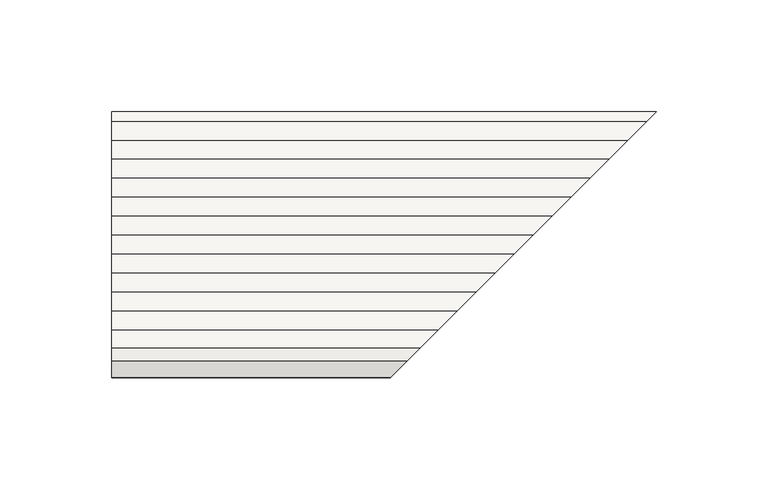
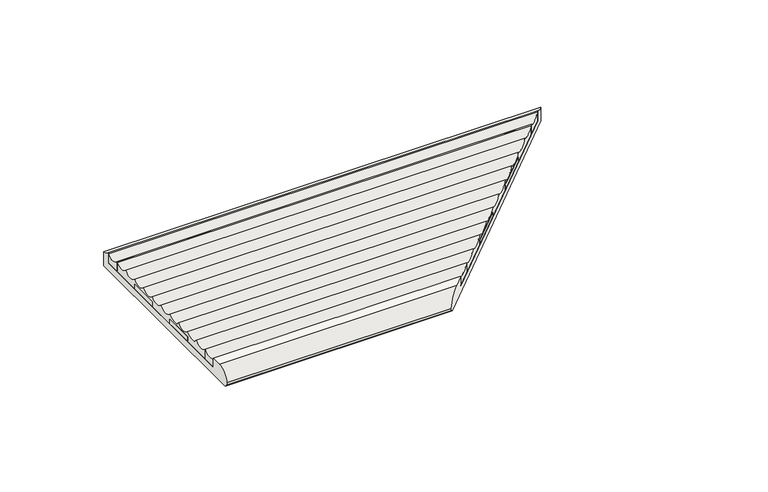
"""IFC4 building model written with IfcOpenShell, lengths in millimetres: slab geometry, ROSA GRES_003 (corte) : Pieza 003_Aqua_Marino_Anti-Slip."""

import ifcopenshell
import ifcopenshell.guid

model = None  # the IFC model being written
_history = None  # IfcOwnerHistory: only IFC2X3 demands one
_inside = {}  # id of a spatial element -> (the spatial element, [elements in it])
_under = {}  # id of a project, library or spatial element -> (it, [spatial elements below it])
_declared = {}  # id of a project -> (the project, [libraries it declares])
_typed = {}  # id of a type object -> (the type object, [elements of that type])
_made_of = {}  # id of a material, layer set ... -> (it, [elements and type objects made of it])


def new_model(schema):
    """Start an empty IFC model of exactly this schema.

    Asked for "IFC4X3", IfcOpenShell would pick the latest addendum, in which some entities
    have other attributes; the version numbers below select the first issue.
    IFC2X3 requires an IfcOwnerHistory on every rooted entity: one is made here for all.
    """
    global model, _history
    if schema == "IFC4X3":
        model = ifcopenshell.file(schema_version=(4, 3, 0, 0))
    else:
        model = ifcopenshell.file(schema=schema)
    _inside.clear()
    _under.clear()
    _declared.clear()
    _typed.clear()
    _made_of.clear()
    _history = None
    if model.schema == "IFC2X3":
        org = make("IfcOrganization", Name="unknown")
        user = make(
            "IfcPersonAndOrganization",
            ThePerson=make("IfcPerson", FamilyName="unknown"),
            TheOrganization=org,
        )
        app = make(
            "IfcApplication",
            ApplicationDeveloper=org,
            Version="unknown",
            ApplicationFullName="unknown",
            ApplicationIdentifier="unknown",
        )
        _history = make(
            "IfcOwnerHistory",
            OwningUser=user,
            OwningApplication=app,
            ChangeAction="ADDED",
            CreationDate=0,
        )
    return model


def make(cls, **values):
    """One entity of the class cls with the attributes given. An attribute that is None is left unset."""
    return model.create_entity(
        cls, **{name: value for name, value in values.items() if value is not None}
    )


def rooted(cls, **values):
    """An entity with a GlobalId (a new one), such as an element, a storey or a relation."""
    return make(cls, GlobalId=ifcopenshell.guid.new(), OwnerHistory=_history, **values)


def si_unit(unit_type, name, prefix=None):
    """IfcSIUnit, for example si_unit("LENGTHUNIT", "METRE", prefix="MILLI")."""
    return make("IfcSIUnit", UnitType=unit_type, Prefix=prefix, Name=name)


def assignment(units):
    """IfcUnitAssignment: the units of a project."""
    return None if units is None else make("IfcUnitAssignment", Units=units)


def point(xyz):
    """IfcCartesianPoint."""
    return None if xyz is None else make("IfcCartesianPoint", Coordinates=xyz)


def direction(xyz):
    """IfcDirection."""
    return None if xyz is None else make("IfcDirection", DirectionRatios=xyz)


def frame(location, z_axis=None, x_axis=None):
    """IfcAxis2Placement3D, a coordinate frame: its origin and axes. An axis left out is left unset."""
    return make(
        "IfcAxis2Placement3D",
        Location=point(location),
        Axis=direction(z_axis),
        RefDirection=direction(x_axis),
    )


def origin():
    """The frame at (0, 0, 0) with its axes left unset."""
    return frame((0.0, 0.0, 0.0))


def place(relative_to, where):
    """IfcLocalPlacement: puts the frame where relative to a parent placement (None: the world)."""
    return make(
        "IfcLocalPlacement", PlacementRelTo=relative_to, RelativePlacement=where
    )


def context(
    kind, dimensions, precision=None, world=None, true_north=None, identifier=None
):
    """IfcGeometricRepresentationContext, for example the 3D "Model" context."""
    return make(
        "IfcGeometricRepresentationContext",
        ContextIdentifier=identifier,
        ContextType=kind,
        CoordinateSpaceDimension=dimensions,
        Precision=precision,
        WorldCoordinateSystem=world,
        TrueNorth=true_north,
    )


def project(units=None, contexts=None):
    """IfcProject with its units and contexts."""
    return rooted(
        "IfcProject",
        Name="project",
        RepresentationContexts=contexts,
        UnitsInContext=assignment(units),
    )


def spatial(cls, under=None, at=None, **own):
    """A site, building, storey or space (cls), placed at a placement, below another one or the project."""
    s = rooted(cls, ObjectPlacement=at, **own)
    if under is not None:
        _under.setdefault(under.id(), (under, []))[1].append(s)
    return s


def polyline(points):
    """IfcPolyline through the points."""
    return make("IfcPolyline", Points=[point(p) for p in points])


def circle_curve(where, radius):
    """IfcCircle in the frame where."""
    return make("IfcCircle", Position=where, Radius=radius)


def ellipse_curve(where, semi_axis1, semi_axis2):
    """IfcEllipse in the frame where."""
    return make(
        "IfcEllipse", Position=where, SemiAxis1=semi_axis1, SemiAxis2=semi_axis2
    )


def faces_of(points, faces, orient=None, outer=None):
    """IfcFace entities. A face is a list of loops; a loop is a list of indices into points, from 0.

    orient and outer hold one flag for each loop. By default every Orientation is true, the
    first loop of a face is its IfcFaceOuterBound and the others are IfcFaceBound.
    """
    made = []
    for i, loops in enumerate(faces):
        bounds = []
        for j, loop in enumerate(loops):
            is_outer = j == 0 if outer is None else outer[i][j]
            bounds.append(
                make(
                    "IfcFaceOuterBound" if is_outer else "IfcFaceBound",
                    Bound=make("IfcPolyLoop", Polygon=[points[k] for k in loop]),
                    Orientation=True if orient is None else orient[i][j],
                )
            )
        made.append(make("IfcFace", Bounds=bounds))
    return made


def faceted_brep(points, faces, orient=None, outer=None, voids=None):
    """IfcFacetedBrep: a solid bounded by flat faces; with voids (closed shells), ...WithVoids."""
    shared = [point(p) for p in points]
    hull = make("IfcClosedShell", CfsFaces=faces_of(shared, faces, orient, outer))
    if voids is None:
        return make("IfcFacetedBrep", Outer=hull)
    return make(
        "IfcFacetedBrepWithVoids",
        Outer=hull,
        Voids=[
            make(cls, CfsFaces=faces_of(shared, fs, o, b)) for cls, fs, o, b in voids
        ],
    )


def shape(context_of_items, identifier, shape_type, items):
    """IfcShapeRepresentation: the items that make up one representation, for example the "Body"."""
    return make(
        "IfcShapeRepresentation",
        ContextOfItems=context_of_items,
        RepresentationIdentifier=identifier,
        RepresentationType=shape_type,
        Items=items,
    )


def source(mapping_origin, context_of_items, identifier, shape_type, items):
    """IfcRepresentationMap: a shape defined once, which mapped items show again and again."""
    return make(
        "IfcRepresentationMap",
        MappingOrigin=mapping_origin,
        MappedRepresentation=shape(context_of_items, identifier, shape_type, items),
    )


def transform(
    local_origin,
    x_axis=None,
    y_axis=None,
    z_axis=None,
    scale=None,
    scale2=None,
    scale3=None,
    uniform=True,
):
    """IfcCartesianTransformationOperator3D, or its non-uniform kind. x_axis, y_axis, z_axis: its Axis1, 2, 3."""
    if uniform:
        return make(
            "IfcCartesianTransformationOperator3D",
            Axis1=direction(x_axis),
            Axis2=direction(y_axis),
            LocalOrigin=point(local_origin),
            Scale=scale,
            Axis3=direction(z_axis),
        )
    return make(
        "IfcCartesianTransformationOperator3DnonUniform",
        Axis1=direction(x_axis),
        Axis2=direction(y_axis),
        LocalOrigin=point(local_origin),
        Scale=scale,
        Axis3=direction(z_axis),
        Scale2=scale2,
        Scale3=scale3,
    )


def mapped(mapping_source, mapping_target):
    """IfcMappedItem: shows the shape of a source again, moved by a transform."""
    return make(
        "IfcMappedItem", MappingSource=mapping_source, MappingTarget=mapping_target
    )


def made_of(thing, what):
    """Note that an element or type object is made of a material, layer set ...; save() writes the relation."""
    if what is not None:
        _made_of.setdefault(what.id(), (what, []))[1].append(thing)
    return thing


def element(
    cls,
    number,
    at=None,
    inside=None,
    cuts=None,
    type_object=None,
    material=None,
    context=None,
    identifier="Body",
    shape_type=None,
    held_by="IfcProductDefinitionShape",
    body=None,
    shapes=None,
    **own,
):
    """One element of the class cls, such as IfcWall. Its Tag is "e" and its number.

    at: its placement. inside: the storey or other place that contains it. cuts: it is an
    opening in that element (IfcRelVoidsElement). A single representation is given by context,
    identifier, shape_type and body (its items); several are given by shapes. held_by: the class
    of the entity that holds the representations. save() writes the other relations.
    """
    e = rooted(cls, Tag="e%d" % number, ObjectPlacement=at, **own)
    if body is not None:
        shapes = [shape(context, identifier, shape_type, body)]
    if shapes is not None:
        e.Representation = make(held_by, Representations=shapes)
    if inside is not None:
        _inside.setdefault(inside.id(), (inside, []))[1].append(e)
    if cuts is not None:
        rooted(
            "IfcRelVoidsElement", RelatingBuildingElement=cuts, RelatedOpeningElement=e
        )
    if type_object is not None:
        _typed.setdefault(type_object.id(), (type_object, []))[1].append(e)
    return made_of(e, material)


def aggregate(whole, parts):
    """IfcRelAggregates: a whole, such as a stair, and the parts it consists of."""
    return rooted("IfcRelAggregates", RelatingObject=whole, RelatedObjects=parts)


def save(model, path):
    """Write the relations noted so far, then the file.

    IfcRelAggregates (storeys below a building ...), IfcRelContainedInSpatialStructure (elements
    in a storey), IfcRelDefinesByType, IfcRelAssociatesMaterial and IfcRelDeclares: one each for
    every whole, place, type object, material and project.
    """
    for whole, parts in _under.values():
        aggregate(whole, parts)
    for where, things in _inside.values():
        rooted(
            "IfcRelContainedInSpatialStructure",
            RelatedElements=things,
            RelatingStructure=where,
        )
    for kind, things in _typed.values():
        rooted("IfcRelDefinesByType", RelatedObjects=things, RelatingType=kind)
    for what, things in _made_of.values():
        rooted("IfcRelAssociatesMaterial", RelatedObjects=things, RelatingMaterial=what)
    for by, libraries in _declared.values():
        rooted("IfcRelDeclares", RelatingContext=by, RelatedDefinitions=libraries)
    model.write(path)


def plane_surface(at):
    """IfcPlane: the flat surface through the origin of the frame at, square to its z axis."""
    return make("IfcPlane", Position=at)


def cylinder_surface(at, radius):
    """IfcCylindricalSurface: all points at the distance radius from the z axis of the frame at."""
    return make("IfcCylindricalSurface", Position=at, Radius=radius)


def revolved_surface(curve, axis_point, axis_direction):
    """IfcSurfaceOfRevolution: the curve turned about the line through axis_point along axis_direction."""
    return make(
        "IfcSurfaceOfRevolution",
        SweptCurve=make("IfcArbitraryOpenProfileDef", ProfileType="CURVE", Curve=curve),
        AxisPosition=make("IfcAxis1Placement", Location=point(axis_point), Axis=direction(axis_direction)),
    )


def advanced_brep(points, edges, surfaces, faces):
    """IfcAdvancedBrep: a solid bounded by faces that lie on surfaces and meet in shared edges.

    An edge is (start, end): straight between two places in points (the first is 0);
    or (start, end, curve); or (start, end, curve, False) where it runs against its curve.
    A face is (place in surfaces, loops), or (place, loops, False) where it looks against
    its surface's normal. A loop lists edges by number (the first is 1), with a minus sign
    where the edge is run from its end to its start. The first loop is the outer one.
    """
    corners = [point(p) for p in points]
    vertices = [make("IfcVertexPoint", VertexGeometry=c) for c in corners]
    made = []
    for start, end, *more in edges:
        made.append(
            make(
                "IfcEdgeCurve",
                EdgeStart=vertices[start],
                EdgeEnd=vertices[end],
                EdgeGeometry=more[0] if more else make("IfcPolyline", Points=[corners[start], corners[end]]),
                SameSense=more[1] if len(more) > 1 else True,
            )
        )
    hull = []
    for where, loops, *sense in faces:
        bounds = []
        for j, loop in enumerate(loops):
            ring = [make("IfcOrientedEdge", EdgeElement=made[abs(k) - 1], Orientation=k > 0) for k in loop]
            bounds.append(
                make(
                    "IfcFaceOuterBound" if j == 0 else "IfcFaceBound",
                    Bound=make("IfcEdgeLoop", EdgeList=ring),
                    Orientation=True,
                )
            )
        hull.append(make("IfcAdvancedFace", Bounds=bounds, FaceSurface=surfaces[where], SameSense=sense[0] if sense else True))
    return make("IfcAdvancedBrep", Outer=make("IfcClosedShell", CfsFaces=hull))


def slab_8c31d14a(model_context):
    return source(origin(), model_context, "Body", "SolidModel", [
        advanced_brep(
        [(0.0, 7.6663965, 9.4971975), (0.0, 13.1748183, 9.4971975), (0.0, 13.1748183, 4.0921512), (0.0, 114.6668888, 4.0921512), (0.0, 114.6668888, 10.0472945), (0.0, 118.9413691, 8.0603545), (0.0, 118.9413691, 0.0), (0.0, 1.8763284, 0.0), (0.0, 0.5667365, 1.309592), (0.0, 0.0244803, 2.9846331), (132.2250275, 7.6663965, 9.4971975), (137.7334492, 13.1748183, 9.4971975), (239.2255197, 114.6668888, 10.0472945), (243.5, 118.9413691, 8.0603545), (243.5, 118.9413691, 0.0), (126.4349593, 1.8763284, 0.0), (125.1253674, 0.5667365, 1.309592), (124.5831112, 0.0244803, 2.9846331), (137.7334492, 13.1748183, 4.0921512), (239.2255197, 114.6668888, 4.0921512)],
        [
            (0, 1),
            (1, 2),
            (2, 3),
            (3, 4),
            (4, 5, circle_curve(frame((0.0, 118.9413691, 13.6516438), z_axis=(1.0, 0.0, 0.0), x_axis=(0.0, 1.0, 0.0)), 5.5912893)),
            (5, 6),
            (6, 7),
            (7, 8),
            (8, 9, circle_curve(frame((0.0, 1.9349594, 2.6778148), z_axis=(-1.0, 0.0, 0.0), x_axis=(0.0, 1.0, 0.0)), 1.9349594)),
            (9, 0, circle_curve(frame((0.0, 7.6663965, 1.7573601), z_axis=(-1.0, 0.0, 0.0), x_axis=(0.0, 1.0, 0.0)), 7.7398374)),
            (0, 10),
            (10, 11),
            (11, 1),
            (4, 12),
            (12, 13, ellipse_curve(frame((243.5, 118.9413691, 13.6516438), z_axis=(0.7071067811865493, -0.7071067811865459, 0.0), x_axis=(0.7071067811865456, 0.7071067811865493, 0.0)), 7.9072771, 5.5912893)),
            (13, 5),
            (13, 14),
            (14, 6),
            (14, 15),
            (15, 7),
            (15, 16),
            (16, 8),
            (16, 17, ellipse_curve(frame((126.4935903, 1.9349594, 2.6778148), z_axis=(-0.7071067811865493, 0.7071067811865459, 0.0), x_axis=(-0.7071067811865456, -0.7071067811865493, 0.0)), 2.7364458, 1.9349594)),
            (17, 9),
            (17, 10, ellipse_curve(frame((132.2250275, 7.6663965, 1.7573601), z_axis=(-0.7071067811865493, 0.7071067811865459, 0.0), x_axis=(-0.7071067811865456, -0.7071067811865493, 0.0)), 10.945783, 7.7398374)),
            (11, 18),
            (18, 2),
            (18, 19),
            (19, 3),
            (19, 12),
        ],
        [
            plane_surface(frame((0.0, 0.0, 0.0), z_axis=(-1.0, 0.0, 0.0), x_axis=(0.0, 0.0, 1.0))),
            plane_surface(frame((0.0, 7.6663965, 9.4971975), z_axis=(0.0, 0.0, 1.0), x_axis=(1.0, 0.0, 0.0))),
            revolved_surface(polyline([(249.09128925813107, 124.5326584, 13.6516438), (0.0, 124.5326584, 13.6516438)]), (0.0, 118.9413691, 13.6516438), (1.0, 0.0, 0.0)),
            plane_surface(frame((0.0, 118.9413691, 8.0603545), z_axis=(0.0, 1.0, 0.0), x_axis=(1.0, 0.0, 0.0))),
            plane_surface(frame((0.0, 118.9413691, 0.0), z_axis=(0.0, 0.0, -1.0), x_axis=(1.0, 0.0, 0.0))),
            plane_surface(frame((0.0, 1.8763284, 0.0), z_axis=(0.0, -0.707106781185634, -0.7071067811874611), x_axis=(1.0, 0.0, 0.0))),
            cylinder_surface(frame((0.0, 1.9349594, 2.6778148), z_axis=(-1.0, 0.0, 0.0), x_axis=(0.0, 1.0, 0.0)), 1.9349594),
            cylinder_surface(frame((0.0, 7.6663965, 1.7573601), z_axis=(-1.0, 0.0, 0.0), x_axis=(0.0, 1.0, 0.0)), 7.7398374),
            plane_surface(frame((0.0, 13.1748183, 9.4971975), z_axis=(0.0, 1.0, 0.0), x_axis=(1.0, 0.0, 0.0))),
            plane_surface(frame((0.0, 13.1748183, 4.0921512), z_axis=(0.0, 0.0, 1.0), x_axis=(1.0, 0.0, 0.0))),
            plane_surface(frame((0.0, 114.6668888, 4.0921512), z_axis=(0.0, -1.0, 0.0), x_axis=(1.0, 0.0, 0.0))),
            plane_surface(frame((244.0, 119.4413691, 104.9871832), z_axis=(0.7071067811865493, -0.7071067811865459, 0.0), x_axis=(0.0, 0.0, -1.0))),
        ],
        [
            (0, [[1, 2, 3, 4, 5, 6, 7, 8, 9, 10]]),
            (1, [[-1, 11, 12, 13]]),
            (2, [[-5, 14, 15, 16]]),
            (3, [[-6, -16, 17, 18]]),
            (4, [[-7, -18, 19, 20]]),
            (5, [[-8, -20, 21, 22]]),
            (6, [[-9, -22, 23, 24]]),
            (7, [[-10, -24, 25, -11]]),
            (8, [[-2, -13, 26, 27]]),
            (9, [[-3, -27, 28, 29]]),
            (10, [[-4, -29, 30, -14]]),
            (11, [[-12, -25, -23, -21, -19, -17, -15, -30, -28, -26]]),
        ],
    ),
        advanced_brep(
        [(0.0, 13.1748183, 9.5193792), (0.0, 21.1668888, 9.9900186), (0.0, 21.1668888, 4.0921512), (0.0, 13.1748183, 4.0921512), (137.7334492, 13.1748183, 9.5193792), (145.7255197, 21.1668888, 9.9900186), (145.7255197, 21.1668888, 4.0921512), (137.7334492, 13.1748183, 4.0921512)],
        [
            (0, 1, circle_curve(frame((0.0, 16.9413691, 13.6516438), z_axis=(1.0, 0.0, 0.0), x_axis=(0.0, 1.0, 0.0)), 5.5912893)),
            (1, 2),
            (2, 3),
            (3, 0),
            (0, 4),
            (4, 5, ellipse_curve(frame((141.5, 16.9413691, 13.6516438), z_axis=(0.7071067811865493, -0.7071067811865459, 0.0), x_axis=(0.7071067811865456, 0.7071067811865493, 0.0)), 7.9072771, 5.5912893)),
            (5, 1),
            (5, 6),
            (6, 2),
            (6, 7),
            (7, 3),
            (7, 4),
        ],
        [
            plane_surface(frame((0.0, 0.0, 0.0), z_axis=(-1.0, 0.0, 0.0), x_axis=(0.0, 0.0, 1.0))),
            revolved_surface(polyline([(147.09128925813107, 22.5326584, 13.6516438), (0.0, 22.5326584, 13.6516438)]), (0.0, 16.9413691, 13.6516438), (1.0, 0.0, 0.0)),
            plane_surface(frame((0.0, 21.1668888, 9.9900186), z_axis=(0.0, 1.0, 0.0), x_axis=(1.0, 0.0, 0.0))),
            plane_surface(frame((0.0, 21.1668888, 4.0921512), z_axis=(0.0, 0.0, -1.0), x_axis=(1.0, 0.0, 0.0))),
            plane_surface(frame((0.0, 13.1748183, 4.0921512), z_axis=(0.0, -1.0, 0.0), x_axis=(1.0, 0.0, 0.0))),
            plane_surface(frame((244.0, 119.4413691, 104.9871832), z_axis=(0.7071067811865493, -0.7071067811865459, 0.0), x_axis=(0.0, 0.0, -1.0))),
        ],
        [
            (0, [[1, 2, 3, 4]]),
            (1, [[-1, 5, 6, 7]]),
            (2, [[-2, -7, 8, 9]]),
            (3, [[-3, -9, 10, 11]]),
            (4, [[-4, -11, 12, -5]]),
            (5, [[-6, -12, -10, -8]]),
        ],
    ),
        advanced_brep(
        [(0.0, 106.1668888, 10.0472945), (0.0, 114.6913691, 10.0184612), (0.0, 114.6913691, 4.0921512), (0.0, 106.1668888, 4.0921512), (230.7255197, 106.1668888, 10.0472945), (239.25, 114.6913691, 10.0184612), (239.25, 114.6913691, 4.0921512), (230.7255197, 106.1668888, 4.0921512)],
        [
            (0, 1, circle_curve(frame((0.0, 110.4413691, 13.6516438), z_axis=(1.0, 0.0, 0.0), x_axis=(0.0, 1.0, 0.0)), 5.5912893)),
            (1, 2),
            (2, 3),
            (3, 0),
            (0, 4),
            (4, 5, ellipse_curve(frame((235.0, 110.4413691, 13.6516438), z_axis=(0.7071067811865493, -0.7071067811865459, 0.0), x_axis=(0.7071067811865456, 0.7071067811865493, 0.0)), 7.9072771, 5.5912893)),
            (5, 1),
            (2, 6),
            (6, 7),
            (7, 3),
            (7, 4),
            (5, 6),
        ],
        [
            plane_surface(frame((0.0, 0.0, 0.0), z_axis=(-1.0, 0.0, 0.0), x_axis=(0.0, 0.0, 1.0))),
            revolved_surface(polyline([(240.59128925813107, 116.0326584, 13.6516438), (0.0, 116.0326584, 13.6516438)]), (0.0, 110.4413691, 13.6516438), (1.0, 0.0, 0.0)),
            plane_surface(frame((0.0, 114.6913691, 4.0921512), z_axis=(0.0, 0.0, -1.0), x_axis=(1.0, 0.0, 0.0))),
            plane_surface(frame((0.0, 106.1668888, 4.0921512), z_axis=(0.0, -1.0, 0.0), x_axis=(1.0, 0.0, 0.0))),
            plane_surface(frame((0.0, 114.6913691, 10.0184612), z_axis=(0.0, 1.0, 0.0), x_axis=(1.0, 0.0, 0.0))),
            plane_surface(frame((244.0, 119.4413691, 104.9871832), z_axis=(0.7071067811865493, -0.7071067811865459, 0.0), x_axis=(0.0, 0.0, -1.0))),
        ],
        [
            (0, [[1, 2, 3, 4]]),
            (1, [[-1, 5, 6, 7]]),
            (2, [[-3, 8, 9, 10]]),
            (3, [[-4, -10, 11, -5]]),
            (4, [[-2, -7, 12, -8]]),
            (5, [[-6, -11, -9, -12]]),
        ],
    ),
        faceted_brep([(0.0, 38.1668888, 4.0921512), (0.0, 38.1668888, 7.0184612), (0.0, 55.1668888, 7.0184612), (0.0, 55.1668888, 4.0921512), (162.7255197, 38.1668888, 4.0921512), (162.7255197, 38.1668888, 7.0184612), (179.7255197, 55.1668888, 7.0184612), (179.7255197, 55.1668888, 4.0921512)], [[[0, 1, 2, 3]], [[1, 0, 4, 5]], [[2, 1, 5, 6]], [[3, 2, 6, 7]], [[0, 3, 7, 4]], [[5, 4, 7, 6]]]),
        faceted_brep([(0.0, 72.1668888, 4.0921512), (0.0, 72.1668888, 7.0184612), (0.0, 89.1668888, 7.0184612), (0.0, 89.1668888, 4.0921512), (213.7255197, 89.1668888, 4.0921512), (196.7255197, 72.1668888, 4.0921512), (196.7255197, 72.1668888, 7.0184612), (213.7255197, 89.1668888, 7.0184612)], [[[0, 1, 2, 3]], [[0, 3, 4, 5]], [[1, 0, 5, 6]], [[2, 1, 6, 7]], [[3, 2, 7, 4]], [[5, 4, 7, 6]]]),
        advanced_brep(
        [(0.0, 21.1668888, 10.0472945), (0.0, 29.6913691, 10.0184612), (0.0, 38.1913691, 10.0184612), (0.0, 46.6913691, 10.0184612), (0.0, 55.1913691, 10.0184612), (0.0, 63.6913691, 10.0184612), (0.0, 72.1913691, 10.0184612), (0.0, 80.6913691, 10.0184612), (0.0, 89.1913691, 10.0184612), (0.0, 97.6913691, 10.0184612), (0.0, 106.1668888, 9.9900186), (0.0, 106.1668888, 4.0921512), (0.0, 89.1668888, 4.0921512), (0.0, 89.1668888, 7.0184612), (0.0, 72.1668888, 7.0184612), (0.0, 72.1668888, 4.0921512), (0.0, 55.1668888, 4.0921512), (0.0, 55.1668888, 7.0184612), (0.0, 38.1668888, 7.0184612), (0.0, 38.1668888, 4.0921512), (0.0, 21.1668888, 4.0921512), (145.7255197, 21.1668888, 10.0472945), (154.25, 29.6913691, 10.0184612), (162.75, 38.1913691, 10.0184612), (171.25, 46.6913691, 10.0184612), (179.75, 55.1913691, 10.0184612), (188.25, 63.6913691, 10.0184612), (196.75, 72.1913691, 10.0184612), (205.25, 80.6913691, 10.0184612), (213.75, 89.1913691, 10.0184612), (222.25, 97.6913691, 10.0184612), (230.7255197, 106.1668888, 9.9900186), (230.7255197, 106.1668888, 4.0921512), (213.7255197, 89.1668888, 4.0921512), (213.7255197, 89.1668888, 7.0184612), (196.7255197, 72.1668888, 7.0184612), (196.7255197, 72.1668888, 4.0921512), (179.7255197, 55.1668888, 4.0921512), (179.7255197, 55.1668888, 7.0184612), (162.7255197, 38.1668888, 7.0184612), (162.7255197, 38.1668888, 4.0921512), (145.7255197, 21.1668888, 4.0921512)],
        [
            (0, 1, circle_curve(frame((0.0, 25.4413691, 13.6516438), z_axis=(1.0, 0.0, 0.0), x_axis=(0.0, 1.0, 0.0)), 5.5912893)),
            (1, 2, circle_curve(frame((0.0, 33.9413691, 13.6516438), z_axis=(1.0, 0.0, 0.0), x_axis=(0.0, 1.0, 0.0)), 5.5912893)),
            (2, 3, circle_curve(frame((0.0, 42.4413691, 13.6516438), z_axis=(1.0, 0.0, 0.0), x_axis=(0.0, 1.0, 0.0)), 5.5912893)),
            (3, 4, circle_curve(frame((0.0, 50.9413691, 13.6516438), z_axis=(1.0, 0.0, 0.0), x_axis=(0.0, 1.0, 0.0)), 5.5912893)),
            (4, 5, circle_curve(frame((0.0, 59.4413691, 13.6516438), z_axis=(1.0, 0.0, 0.0), x_axis=(0.0, 1.0, 0.0)), 5.5912893)),
            (5, 6, circle_curve(frame((0.0, 67.9413691, 13.6516438), z_axis=(1.0, 0.0, 0.0), x_axis=(0.0, 1.0, 0.0)), 5.5912893)),
            (6, 7, circle_curve(frame((0.0, 76.4413691, 13.6516438), z_axis=(1.0, 0.0, 0.0), x_axis=(0.0, 1.0, 0.0)), 5.5912893)),
            (7, 8, circle_curve(frame((0.0, 84.9413691, 13.6516438), z_axis=(1.0, 0.0, 0.0), x_axis=(0.0, 1.0, 0.0)), 5.5912893)),
            (8, 9, circle_curve(frame((0.0, 93.4413691, 13.6516438), z_axis=(1.0, 0.0, 0.0), x_axis=(0.0, 1.0, 0.0)), 5.5912893)),
            (9, 10, circle_curve(frame((0.0, 101.9413691, 13.6516438), z_axis=(1.0, 0.0, 0.0), x_axis=(0.0, 1.0, 0.0)), 5.5912893)),
            (10, 11),
            (11, 12),
            (12, 13),
            (13, 14),
            (14, 15),
            (15, 16),
            (16, 17),
            (17, 18),
            (18, 19),
            (19, 20),
            (20, 0),
            (0, 21),
            (21, 22, ellipse_curve(frame((150.0, 25.4413691, 13.6516438), z_axis=(0.7071067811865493, -0.7071067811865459, 0.0), x_axis=(0.7071067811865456, 0.7071067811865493, 0.0)), 7.9072771, 5.5912893)),
            (22, 1),
            (22, 23, ellipse_curve(frame((158.5, 33.9413691, 13.6516438), z_axis=(0.7071067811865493, -0.7071067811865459, 0.0), x_axis=(0.7071067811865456, 0.7071067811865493, 0.0)), 7.9072771, 5.5912893)),
            (23, 2),
            (23, 24, ellipse_curve(frame((167.0, 42.4413691, 13.6516438), z_axis=(0.7071067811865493, -0.7071067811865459, 0.0), x_axis=(0.7071067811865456, 0.7071067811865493, 0.0)), 7.9072771, 5.5912893)),
            (24, 3),
            (24, 25, ellipse_curve(frame((175.5, 50.9413691, 13.6516438), z_axis=(0.7071067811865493, -0.7071067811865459, 0.0), x_axis=(0.7071067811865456, 0.7071067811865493, 0.0)), 7.9072771, 5.5912893)),
            (25, 4),
            (25, 26, ellipse_curve(frame((184.0, 59.4413691, 13.6516438), z_axis=(0.7071067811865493, -0.7071067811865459, 0.0), x_axis=(0.7071067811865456, 0.7071067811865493, 0.0)), 7.9072771, 5.5912893)),
            (26, 5),
            (26, 27, ellipse_curve(frame((192.5, 67.9413691, 13.6516438), z_axis=(0.7071067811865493, -0.7071067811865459, 0.0), x_axis=(0.7071067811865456, 0.7071067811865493, 0.0)), 7.9072771, 5.5912893)),
            (27, 6),
            (27, 28, ellipse_curve(frame((201.0, 76.4413691, 13.6516438), z_axis=(0.7071067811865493, -0.7071067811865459, 0.0), x_axis=(0.7071067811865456, 0.7071067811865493, 0.0)), 7.9072771, 5.5912893)),
            (28, 7),
            (28, 29, ellipse_curve(frame((209.5, 84.9413691, 13.6516438), z_axis=(0.7071067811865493, -0.7071067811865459, 0.0), x_axis=(0.7071067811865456, 0.7071067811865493, 0.0)), 7.9072771, 5.5912893)),
            (29, 8),
            (29, 30, ellipse_curve(frame((218.0, 93.4413691, 13.6516438), z_axis=(0.7071067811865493, -0.7071067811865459, 0.0), x_axis=(0.7071067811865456, 0.7071067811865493, 0.0)), 7.9072771, 5.5912893)),
            (30, 9),
            (30, 31, ellipse_curve(frame((226.5, 101.9413691, 13.6516438), z_axis=(0.7071067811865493, -0.7071067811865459, 0.0), x_axis=(0.7071067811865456, 0.7071067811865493, 0.0)), 7.9072771, 5.5912893)),
            (31, 10),
            (31, 32),
            (32, 11),
            (32, 33),
            (33, 12),
            (33, 34),
            (34, 13),
            (34, 35),
            (35, 14),
            (35, 36),
            (36, 15),
            (36, 37),
            (37, 16),
            (37, 38),
            (38, 17),
            (38, 39),
            (39, 18),
            (39, 40),
            (40, 19),
            (40, 41),
            (41, 20),
            (41, 21),
        ],
        [
            plane_surface(frame((0.0, 0.0, 0.0), z_axis=(-1.0, 0.0, 0.0), x_axis=(0.0, 0.0, 1.0))),
            revolved_surface(polyline([(155.59128925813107, 31.0326584, 13.6516438), (0.0, 31.0326584, 13.6516438)]), (0.0, 25.4413691, 13.6516438), (1.0, 0.0, 0.0)),
            revolved_surface(polyline([(164.09128925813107, 39.5326584, 13.6516438), (0.0, 39.5326584, 13.6516438)]), (0.0, 33.9413691, 13.6516438), (1.0, 0.0, 0.0)),
            revolved_surface(polyline([(172.59128925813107, 48.0326584, 13.6516438), (0.0, 48.0326584, 13.6516438)]), (0.0, 42.4413691, 13.6516438), (1.0, 0.0, 0.0)),
            revolved_surface(polyline([(181.09128925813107, 56.5326584, 13.6516438), (0.0, 56.5326584, 13.6516438)]), (0.0, 50.9413691, 13.6516438), (1.0, 0.0, 0.0)),
            revolved_surface(polyline([(189.59128925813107, 65.0326584, 13.6516438), (0.0, 65.0326584, 13.6516438)]), (0.0, 59.4413691, 13.6516438), (1.0, 0.0, 0.0)),
            revolved_surface(polyline([(198.09128925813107, 73.5326584, 13.6516438), (0.0, 73.5326584, 13.6516438)]), (0.0, 67.9413691, 13.6516438), (1.0, 0.0, 0.0)),
            revolved_surface(polyline([(206.59128925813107, 82.0326584, 13.6516438), (0.0, 82.0326584, 13.6516438)]), (0.0, 76.4413691, 13.6516438), (1.0, 0.0, 0.0)),
            revolved_surface(polyline([(215.09128925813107, 90.5326584, 13.6516438), (0.0, 90.5326584, 13.6516438)]), (0.0, 84.9413691, 13.6516438), (1.0, 0.0, 0.0)),
            revolved_surface(polyline([(223.59128925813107, 99.0326584, 13.6516438), (0.0, 99.0326584, 13.6516438)]), (0.0, 93.4413691, 13.6516438), (1.0, 0.0, 0.0)),
            revolved_surface(polyline([(232.09128925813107, 107.5326584, 13.6516438), (0.0, 107.5326584, 13.6516438)]), (0.0, 101.9413691, 13.6516438), (1.0, 0.0, 0.0)),
            plane_surface(frame((0.0, 106.1668888, 9.9900186), z_axis=(0.0, 1.0, 0.0), x_axis=(1.0, 0.0, 0.0))),
            plane_surface(frame((0.0, 106.1668888, 4.0921512), z_axis=(0.0, 0.0, -1.0), x_axis=(1.0, 0.0, 0.0))),
            plane_surface(frame((0.0, 89.1668888, 4.0921512), z_axis=(0.0, -1.0, 0.0), x_axis=(1.0, 0.0, 0.0))),
            plane_surface(frame((0.0, 89.1668888, 7.0184612), z_axis=(0.0, 0.0, -1.0), x_axis=(1.0, 0.0, 0.0))),
            plane_surface(frame((0.0, 72.1668888, 7.0184612), z_axis=(0.0, 1.0, 0.0), x_axis=(1.0, 0.0, 0.0))),
            plane_surface(frame((0.0, 72.1668888, 4.0921512), z_axis=(0.0, 0.0, -1.0), x_axis=(1.0, 0.0, 0.0))),
            plane_surface(frame((0.0, 55.1668888, 4.0921512), z_axis=(0.0, -1.0, 0.0), x_axis=(1.0, 0.0, 0.0))),
            plane_surface(frame((0.0, 55.1668888, 7.0184612), z_axis=(0.0, 0.0, -1.0), x_axis=(1.0, 0.0, 0.0))),
            plane_surface(frame((0.0, 38.1668888, 7.0184612), z_axis=(0.0, 1.0, 0.0), x_axis=(1.0, 0.0, 0.0))),
            plane_surface(frame((0.0, 38.1668888, 4.0921512), z_axis=(0.0, 0.0, -1.0), x_axis=(1.0, 0.0, 0.0))),
            plane_surface(frame((0.0, 21.1668888, 4.0921512), z_axis=(0.0, -1.0, 0.0), x_axis=(1.0, 0.0, 0.0))),
            plane_surface(frame((244.0, 119.4413691, 104.9871832), z_axis=(0.7071067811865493, -0.7071067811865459, 0.0), x_axis=(0.0, 0.0, -1.0))),
        ],
        [
            (0, [[1, 2, 3, 4, 5, 6, 7, 8, 9, 10, 11, 12, 13, 14, 15, 16, 17, 18, 19, 20, 21]]),
            (1, [[-1, 22, 23, 24]]),
            (2, [[-2, -24, 25, 26]]),
            (3, [[-3, -26, 27, 28]]),
            (4, [[-4, -28, 29, 30]]),
            (5, [[-5, -30, 31, 32]]),
            (6, [[-6, -32, 33, 34]]),
            (7, [[-7, -34, 35, 36]]),
            (8, [[-8, -36, 37, 38]]),
            (9, [[-9, -38, 39, 40]]),
            (10, [[-10, -40, 41, 42]]),
            (11, [[-11, -42, 43, 44]]),
            (12, [[-12, -44, 45, 46]]),
            (13, [[-13, -46, 47, 48]]),
            (14, [[-14, -48, 49, 50]]),
            (15, [[-15, -50, 51, 52]]),
            (16, [[-16, -52, 53, 54]]),
            (17, [[-17, -54, 55, 56]]),
            (18, [[-18, -56, 57, 58]]),
            (19, [[-19, -58, 59, 60]]),
            (20, [[-20, -60, 61, 62]]),
            (21, [[-21, -62, 63, -22]]),
            (22, [[-23, -63, -61, -59, -57, -55, -53, -51, -49, -47, -45, -43, -41, -39, -37, -35, -33, -31, -29, -27, -25]]),
        ],
    ),
    ])


if __name__ == "__main__":
    model = new_model("IFC4")
    model_context = context("Model", 3, world=origin())
    ifc_project = project(units=[si_unit("LENGTHUNIT", "METRE", prefix="MILLI")], contexts=[model_context])
    site = spatial("IfcSite", under=ifc_project)
    building = spatial("IfcBuilding", under=site)
    placement = place(None, origin())
    slab_shape = slab_8c31d14a(model_context)
    element("IfcSlab", 1, ObjectType="ROSA GRES_003 (corte) : Pieza 003_Aqua_Marino_Anti-Slip", at=placement, inside=building, context=model_context, shape_type="MappedRepresentation", body=[
        mapped(slab_shape, transform((0.0, 0.0, 0.0), x_axis=(1.0, 0.0, 0.0), y_axis=(0.0, 1.0, 0.0), z_axis=(0.0, 0.0, 1.0))),
    ])
    save(model, "model.ifc")
